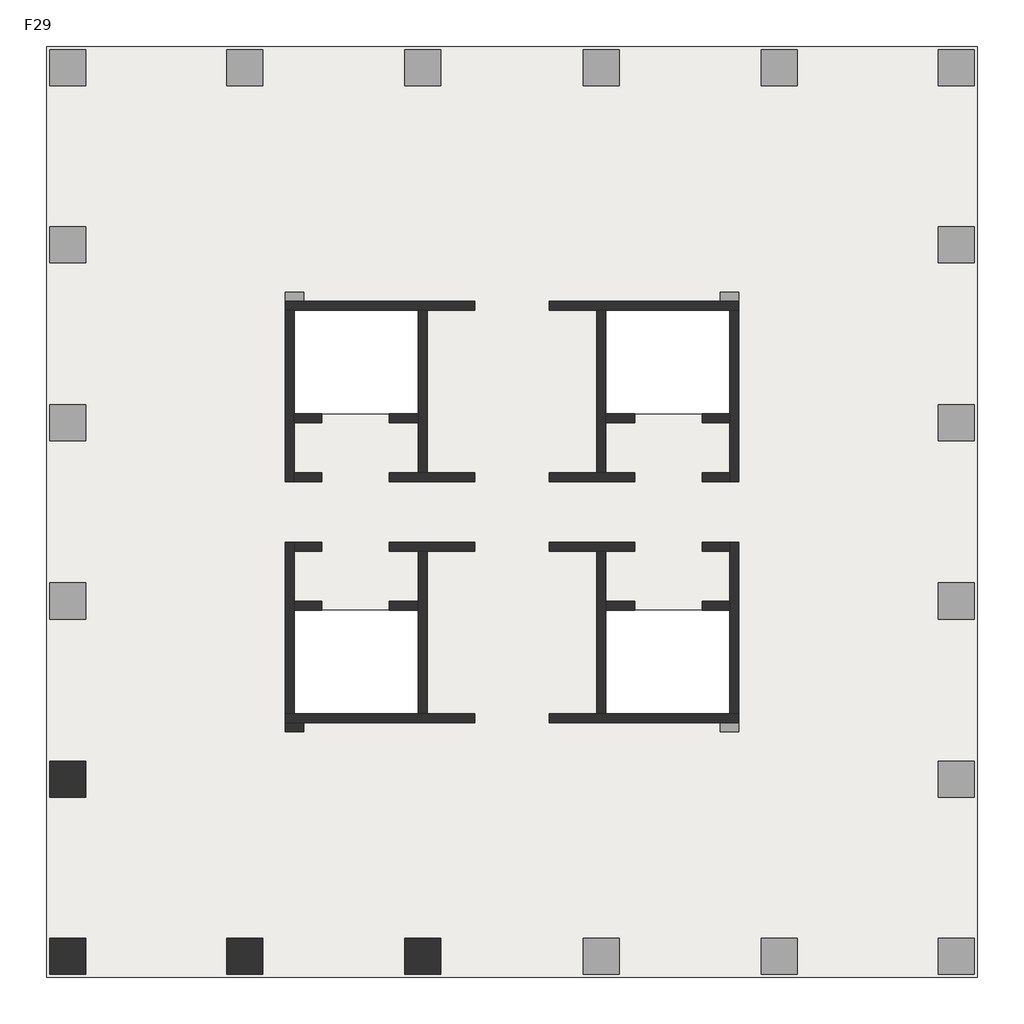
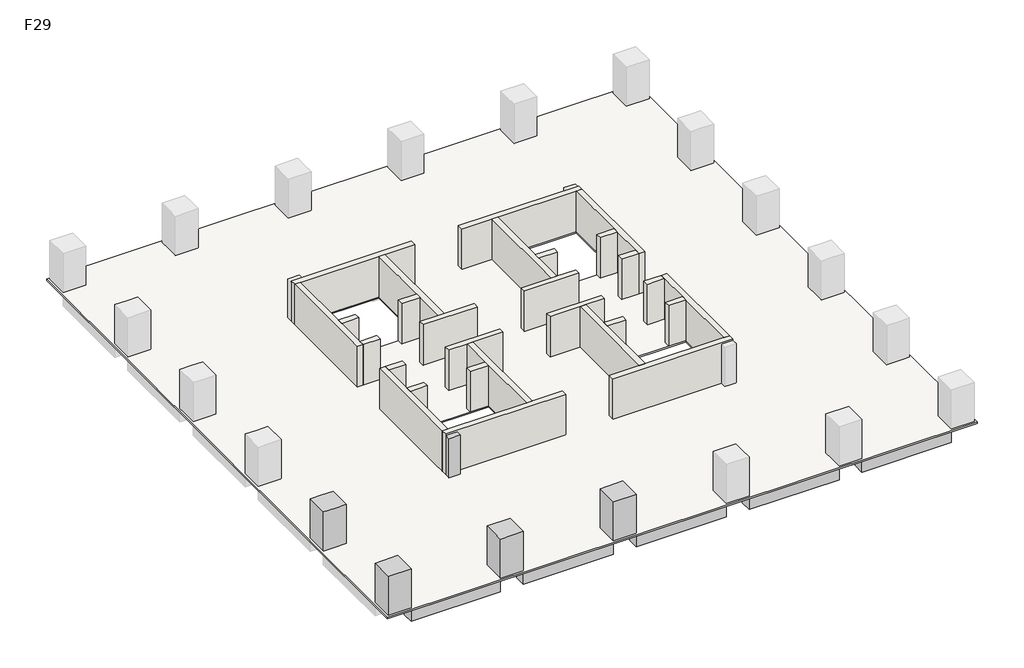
# One storey, part 1 of 2: 28 walls, 5 columns, 3 beams, 1 slab.
"""IFC4 building model written with IfcOpenShell, lengths in millimetres."""

from ifc_helpers import new_model, si_unit, frame, origin, place, context, project, spatial, polyline, outline, extrude, faceted_brep, element, save

model = new_model("IFC4")

# Units and contexts
model_context = context("Model", 3, world=origin())
ifc_project = project(units=[si_unit("LENGTHUNIT", "METRE", prefix="MILLI")], contexts=[model_context])

# Site, building, storey
site = spatial("IfcSite", under=ifc_project)
building = spatial("IfcBuilding", under=site)
storey = spatial("IfcBuildingStorey", under=building, Name="F29", Elevation=105000.0)

# Beams
placement = place(None, origin())
element("IfcBeam", 1, ObjectType="混凝土 - 矩形梁 : KL(5)-800x1000", at=placement, inside=storey, context=model_context, shape_type="SweptSolid", body=[
    extrude(outline(polyline([(-12472.6742169, -13948.9501342), (-12472.6742169, -13148.9501342), (-6222.6742169, -13148.9501342), (-6222.6742169, -13948.9501342), (-12472.6742169, -13948.9501342)])), frame((0.0, 0.0, 104000.0), z_axis=(0.0, 0.0, 1.0), x_axis=(1.0, 0.0, 0.0)), (0.0, 0.0, 1.0), 900.0),
    extrude(outline(polyline([(25327.3257831, -13148.9501342), (25327.3257831, -13948.9501342), (19077.3257831, -13948.9501342), (19077.3257831, -13148.9501342), (25327.3257831, -13148.9501342)])), frame((0.0, 0.0, 104000.0), z_axis=(0.0, 0.0, 1.0), x_axis=(1.0, 0.0, 0.0)), (0.0, 0.0, 1.0), 900.0),
    extrude(outline(polyline([(-4622.6742169, -13948.9501342), (-4622.6742169, -13148.9501342), (1677.3257831, -13148.9501342), (1677.3257831, -13948.9501342), (-4622.6742169, -13948.9501342)])), frame((0.0, 0.0, 104000.0), z_axis=(0.0, 0.0, 1.0), x_axis=(1.0, 0.0, 0.0)), (0.0, 0.0, 1.0), 900.0),
    extrude(outline(polyline([(3277.3257831, -13948.9501342), (3277.3257831, -13148.9501342), (9577.3257831, -13148.9501342), (9577.3257831, -13948.9501342), (3277.3257831, -13948.9501342)])), frame((0.0, 0.0, 104000.0), z_axis=(0.0, 0.0, 1.0), x_axis=(1.0, 0.0, 0.0)), (0.0, 0.0, 1.0), 900.0),
    extrude(outline(polyline([(11177.3257831, -13948.9501342), (11177.3257831, -13148.9501342), (17477.3257831, -13148.9501342), (17477.3257831, -13948.9501342), (11177.3257831, -13948.9501342)])), frame((0.0, 0.0, 104000.0), z_axis=(0.0, 0.0, 1.0), x_axis=(1.0, 0.0, 0.0)), (0.0, 0.0, 1.0), 900.0),
])
element("IfcBeam", 2, ObjectType="混凝土 - 矩形梁 : L1-800x500", at=placement, inside=storey, context=model_context, shape_type="Brep", body=[
    faceted_brep([(-12472.6742169, -5512.1353397, 104500.0), (-3746.9473979, -3341.556529, 104500.0), (-3173.6696907, -3198.9501342, 104500.0), (-3173.6696907, -3198.9501342, 104900.0), (-3746.9473979, -3341.556529, 104900.0), (-12472.6742169, -5512.1353397, 104900.0), (-3622.6742169, -3198.9501342, 104500.0), (-12472.6742169, -4687.7549784, 104500.0), (-3622.6742169, -2486.2624411, 104500.0), (-3622.6742169, -2798.9501342, 104500.0), (-12472.6742169, -4687.7549784, 104900.0), (-3622.6742169, -2486.2624411, 104900.0), (-3622.6742169, -3198.9501342, 104900.0)], [[[0, 1, 2, 3, 4, 5]], [[6, 2, 1, 0, 7, 8, 9]], [[8, 7, 10, 11]], [[2, 6, 12, 3]], [[9, 8, 11, 12, 6]], [[7, 0, 5, 10]], [[5, 4, 3, 12, 11, 10]]]),
])
element("IfcBeam", 3, ObjectType="混凝土 - 矩形梁 : L1-800x500", at=placement, inside=storey, context=model_context, shape_type="SweptSolid", body=[
    extrude(outline(polyline([(-3746.9473979, -3341.556529), (-3173.6696907, -3198.9501342), (-2898.7618154, -3198.9501342), (-4843.6893517, -12348.9501342), (-5661.5624638, -12348.9501342), (-3746.9473979, -3341.556529)])), frame((0.0, 0.0, 104500.0), z_axis=(0.0, 0.0, 1.0), x_axis=(1.0, 0.0, 0.0)), (0.0, 0.0, 1.0), 400.0),
])

# Columns
element("IfcColumn", 4, ObjectType="混凝土 - 矩形 - 柱 : Z1-1600x1600", at=placement, inside=storey, context=model_context, shape_type="Brep", body=[
    faceted_brep([(-12472.6742169, -4498.9501342, 105000.0), (-12472.6742169, -6098.9501342, 105000.0), (-14072.6742169, -6098.9501342, 105000.0), (-14072.6742169, -4498.9501342, 105000.0), (-12472.6742169, -4498.9501342, 107900.0), (-12472.6742169, -6098.9501342, 107900.0), (-13272.6742169, -6098.9501342, 107900.0), (-14072.6742169, -6098.9501342, 107900.0), (-14072.6742169, -6098.9501342, 107000.0), (-14072.6742169, -4498.9501342, 107900.0), (-14072.6742169, -4498.9501342, 107000.0), (-13272.6742169, -4498.9501342, 107900.0)], [[[0, 1, 2, 3]], [[1, 0, 4, 5]], [[2, 1, 5, 6, 7, 8]], [[3, 2, 8, 7, 9, 10]], [[0, 3, 10, 9, 11, 4]], [[5, 4, 11, 9, 7, 6]]]),
])
element("IfcColumn", 5, ObjectType="混凝土 - 矩形 - 柱 : Z1-1600x1600", at=placement, inside=storey, context=model_context, shape_type="SweptSolid", body=[
    extrude(outline(polyline([(-12472.6742169, -12348.9501342), (-12472.6742169, -13948.9501342), (-14072.6742169, -13948.9501342), (-14072.6742169, -12348.9501342), (-12472.6742169, -12348.9501342)])), frame((0.0, 0.0, 105000.0), z_axis=(0.0, 0.0, 1.0), x_axis=(1.0, 0.0, 0.0)), (0.0, 0.0, 1.0), 2900.0),
])
element("IfcColumn", 6, ObjectType="混凝土 - 矩形 - 柱 : Z1-1600x1600", at=placement, inside=storey, context=model_context, shape_type="Brep", body=[
    faceted_brep([(-4622.6742169, -12348.9501342, 105000.0), (-4622.6742169, -13948.9501342, 105000.0), (-6222.6742169, -13948.9501342, 105000.0), (-6222.6742169, -12348.9501342, 105000.0), (-4622.6742169, -12348.9501342, 107900.0), (-4622.6742169, -13148.9501342, 107900.0), (-4622.6742169, -13948.9501342, 107900.0), (-4622.6742169, -13948.9501342, 107000.0), (-6222.6742169, -13948.9501342, 107900.0), (-6222.6742169, -13948.9501342, 107000.0), (-6222.6742169, -13148.9501342, 107900.0), (-6222.6742169, -12348.9501342, 107900.0)], [[[0, 1, 2, 3]], [[1, 0, 4, 5, 6, 7]], [[2, 1, 7, 6, 8, 9]], [[3, 2, 9, 8, 10, 11]], [[0, 3, 11, 4]], [[6, 5, 4, 11, 10, 8]]]),
])
element("IfcColumn", 7, ObjectType="混凝土 - 矩形 - 柱 : Z1-1600x1600", at=placement, inside=storey, context=model_context, shape_type="Brep", body=[
    faceted_brep([(3277.3257831, -12348.9501342, 105000.0), (3277.3257831, -13948.9501342, 105000.0), (1677.3257831, -13948.9501342, 105000.0), (1677.3257831, -12348.9501342, 105000.0), (3277.3257831, -12348.9501342, 107900.0), (3277.3257831, -13148.9501342, 107900.0), (3277.3257831, -13948.9501342, 107900.0), (3277.3257831, -13948.9501342, 107000.0), (1677.3257831, -13948.9501342, 107900.0), (1677.3257831, -13948.9501342, 107000.0), (1677.3257831, -13148.9501342, 107900.0), (1677.3257831, -12348.9501342, 107900.0)], [[[0, 1, 2, 3]], [[1, 0, 4, 5, 6, 7]], [[2, 1, 7, 6, 8, 9]], [[3, 2, 9, 8, 10, 11]], [[0, 3, 11, 4]], [[6, 5, 4, 11, 10, 8]]]),
])
element("IfcColumn", 8, ObjectType="混凝土 - 矩形 - 柱 : Z2-800x800", at=placement, inside=storey, context=model_context, shape_type="SweptSolid", body=[
    extrude(outline(polyline([(-2822.6742169, -3198.9501342), (-3622.6742169, -3198.9501342), (-3622.6742169, -2798.9501342), (-2822.6742169, -2798.9501342), (-2822.6742169, -3198.9501342)])), frame((0.0, 0.0, 105000.0), z_axis=(0.0, 0.0, 1.0), x_axis=(1.0, 0.0, 0.0)), (0.0, 0.0, 1.0), 2900.0),
])

# Slab
element("IfcSlab", 9, ObjectType="LB-100", at=placement, inside=storey, context=model_context, shape_type="SweptSolid", body=[
    extrude(outline(polyline([(27077.3257831, 27201.0498658), (27077.3257831, -14085.2672073), (-14222.6742169, -14085.2672073), (-14222.6742169, 27201.0498658), (27077.3257831, 27201.0498658)]), holes=[polyline([(2277.3257831, 15501.0498658), (-3222.6742169, 15501.0498658), (-3222.6742169, 10901.0498658), (2277.3257831, 10901.0498658), (2277.3257831, 15501.0498658)]), polyline([(2277.3257831, 2201.0498658), (-3222.6742169, 2201.0498658), (-3222.6742169, -2398.9501342), (2277.3257831, -2398.9501342), (2277.3257831, 2201.0498658)]), polyline([(16077.3257831, 2201.0498658), (10577.3257831, 2201.0498658), (10577.3257831, -2398.9501342), (16077.3257831, -2398.9501342), (16077.3257831, 2201.0498658)]), polyline([(16077.3257831, 15501.0498658), (10577.3257831, 15501.0498658), (10577.3257831, 10901.0498658), (16077.3257831, 10901.0498658), (16077.3257831, 15501.0498658)])]), frame((0.0, 0.0, 104900.0), z_axis=(0.0, 0.0, 1.0), x_axis=(1.0, 0.0, 0.0)), (0.0, 0.0, 1.0), 100.0),
])

# Walls
element("IfcWall", 10, ObjectType="剪力墙-400", at=placement, inside=storey, context=model_context, shape_type="Brep", body=[
    faceted_brep([(-3622.6742169, 15501.0498658, 105000.0), (-3222.6742169, 15501.0498658, 105000.0), (2277.3257831, 15501.0498658, 105000.0), (2677.3257831, 15501.0498658, 105000.0), (4777.3257831, 15501.0498658, 105000.0), (4777.3257831, 15501.0498658, 108000.0), (2677.3257831, 15501.0498658, 108000.0), (2277.3257831, 15501.0498658, 108000.0), (-3222.6742169, 15501.0498658, 108000.0), (-3622.6742169, 15501.0498658, 108000.0), (-3622.6742169, 15901.0498658, 105000.0), (-3622.6742169, 15901.0498658, 107900.0), (-3622.6742169, 15901.0498658, 108000.0), (4777.3257831, 15901.0498658, 108000.0), (4777.3257831, 15901.0498658, 105000.0), (-2822.6742169, 15901.0498658, 105000.0)], [[[0, 1, 2, 3, 4, 5, 6, 7, 8, 9]], [[10, 11, 12, 13, 14, 15]], [[4, 3, 2, 1, 0, 10, 15, 14]], [[5, 4, 14, 13]], [[9, 8, 7, 6, 5, 13, 12]], [[0, 9, 12, 11, 10]]]),
])
element("IfcWall", 11, ObjectType="剪力墙-400", at=placement, inside=storey, context=model_context, shape_type="Brep", body=[
    faceted_brep([(2277.3257831, 15501.0498658, 105000.0), (2277.3257831, 10901.0498658, 105000.0), (2277.3257831, 10501.0498658, 105000.0), (2277.3257831, 8301.0498658, 105000.0), (2277.3257831, 8301.0498658, 108000.0), (2277.3257831, 10501.0498658, 108000.0), (2277.3257831, 10901.0498658, 108000.0), (2277.3257831, 15501.0498658, 108000.0), (2677.3257831, 15501.0498658, 105000.0), (2677.3257831, 15501.0498658, 108000.0), (2677.3257831, 8301.0498658, 108000.0), (2677.3257831, 8301.0498658, 105000.0)], [[[0, 1, 2, 3, 4, 5, 6, 7]], [[8, 9, 10, 11]], [[3, 2, 1, 0, 8, 11]], [[7, 6, 5, 4, 10, 9]], [[0, 7, 9, 8]], [[4, 3, 11, 10]]]),
])
element("IfcWall", 12, ObjectType="剪力墙-400", at=placement, inside=storey, context=model_context, shape_type="Brep", body=[
    faceted_brep([(-3622.6742169, 15501.0498658, 105000.0), (-3622.6742169, 7901.0498658, 105000.0), (-3622.6742169, 7901.0498658, 108000.0), (-3622.6742169, 15501.0498658, 108000.0), (-3222.6742169, 15501.0498658, 105000.0), (-3222.6742169, 15501.0498658, 108000.0), (-3222.6742169, 10901.0498658, 108000.0), (-3222.6742169, 10501.0498658, 108000.0), (-3222.6742169, 8301.0498658, 108000.0), (-3222.6742169, 7901.0498658, 108000.0), (-3222.6742169, 7901.0498658, 105000.0), (-3222.6742169, 8301.0498658, 105000.0), (-3222.6742169, 10501.0498658, 105000.0), (-3222.6742169, 10901.0498658, 105000.0)], [[[0, 1, 2, 3]], [[4, 5, 6, 7, 8, 9, 10, 11, 12, 13]], [[1, 0, 4, 13, 12, 11, 10]], [[3, 2, 9, 8, 7, 6, 5]], [[0, 3, 5, 4]], [[2, 1, 10, 9]]]),
])
element("IfcWall", 13, ObjectType="剪力墙-400", at=placement, inside=storey, context=model_context, shape_type="SweptSolid", body=[
    extrude(outline(polyline([(-2022.6742169, 7901.0498658), (-3222.6742169, 7901.0498658), (-3222.6742169, 8301.0498658), (-2022.6742169, 8301.0498658), (-2022.6742169, 7901.0498658)])), frame((0.0, 0.0, 105000.0), z_axis=(0.0, 0.0, 1.0), x_axis=(1.0, 0.0, 0.0)), (0.0, 0.0, 1.0), 3000.0),
])
element("IfcWall", 14, ObjectType="剪力墙-400", at=placement, inside=storey, context=model_context, shape_type="Brep", body=[
    faceted_brep([(977.3257831, 7901.0498658, 105000.0), (4777.3257831, 7901.0498658, 105000.0), (4777.3257831, 7901.0498658, 108000.0), (977.3257831, 7901.0498658, 108000.0), (977.3257831, 8301.0498658, 105000.0), (977.3257831, 8301.0498658, 108000.0), (2277.3257831, 8301.0498658, 108000.0), (2677.3257831, 8301.0498658, 108000.0), (4777.3257831, 8301.0498658, 108000.0), (4777.3257831, 8301.0498658, 105000.0), (2677.3257831, 8301.0498658, 105000.0), (2277.3257831, 8301.0498658, 105000.0)], [[[0, 1, 2, 3]], [[4, 5, 6, 7, 8, 9, 10, 11]], [[1, 0, 4, 11, 10, 9]], [[2, 1, 9, 8]], [[3, 2, 8, 7, 6, 5]], [[0, 3, 5, 4]]]),
])
element("IfcWall", 15, ObjectType="剪力墙-400", at=placement, inside=storey, context=model_context, shape_type="SweptSolid", body=[
    extrude(outline(polyline([(-2022.6742169, 10501.0498658), (-3222.6742169, 10501.0498658), (-3222.6742169, 10901.0498658), (-2022.6742169, 10901.0498658), (-2022.6742169, 10501.0498658)])), frame((0.0, 0.0, 105000.0), z_axis=(0.0, 0.0, 1.0), x_axis=(1.0, 0.0, 0.0)), (0.0, 0.0, 1.0), 3000.0),
])
element("IfcWall", 16, ObjectType="剪力墙-400", at=placement, inside=storey, context=model_context, shape_type="SweptSolid", body=[
    extrude(outline(polyline([(2277.3257831, 10501.0498658), (977.3257831, 10501.0498658), (977.3257831, 10901.0498658), (2277.3257831, 10901.0498658), (2277.3257831, 10501.0498658)])), frame((0.0, 0.0, 105000.0), z_axis=(0.0, 0.0, 1.0), x_axis=(1.0, 0.0, 0.0)), (0.0, 0.0, 1.0), 3000.0),
])
element("IfcWall", 17, ObjectType="剪力墙-400", at=placement, inside=storey, context=model_context, shape_type="Brep", body=[
    faceted_brep([(16477.3257831, 15901.0498658, 105000.0), (15677.3257831, 15901.0498658, 105000.0), (8077.3257831, 15901.0498658, 105000.0), (8077.3257831, 15901.0498658, 108000.0), (16477.3257831, 15901.0498658, 108000.0), (16477.3257831, 15901.0498658, 107900.0), (16477.3257831, 15501.0498658, 105000.0), (16477.3257831, 15501.0498658, 108000.0), (16077.3257831, 15501.0498658, 108000.0), (10577.3257831, 15501.0498658, 108000.0), (10177.3257831, 15501.0498658, 108000.0), (8077.3257831, 15501.0498658, 108000.0), (8077.3257831, 15501.0498658, 105000.0), (10177.3257831, 15501.0498658, 105000.0), (10577.3257831, 15501.0498658, 105000.0), (16077.3257831, 15501.0498658, 105000.0)], [[[0, 1, 2, 3, 4, 5]], [[6, 7, 8, 9, 10, 11, 12, 13, 14, 15]], [[2, 1, 0, 6, 15, 14, 13, 12]], [[3, 2, 12, 11]], [[4, 3, 11, 10, 9, 8, 7]], [[0, 5, 4, 7, 6]]]),
])
element("IfcWall", 18, ObjectType="剪力墙-400", at=placement, inside=storey, context=model_context, shape_type="Brep", body=[
    faceted_brep([(10177.3257831, 15501.0498658, 105000.0), (10177.3257831, 8301.0498658, 105000.0), (10177.3257831, 8301.0498658, 108000.0), (10177.3257831, 15501.0498658, 108000.0), (10577.3257831, 15501.0498658, 105000.0), (10577.3257831, 15501.0498658, 108000.0), (10577.3257831, 10901.0498658, 108000.0), (10577.3257831, 10501.0498658, 108000.0), (10577.3257831, 8301.0498658, 108000.0), (10577.3257831, 8301.0498658, 105000.0), (10577.3257831, 10501.0498658, 105000.0), (10577.3257831, 10901.0498658, 105000.0)], [[[0, 1, 2, 3]], [[4, 5, 6, 7, 8, 9, 10, 11]], [[1, 0, 4, 11, 10, 9]], [[3, 2, 8, 7, 6, 5]], [[0, 3, 5, 4]], [[2, 1, 9, 8]]]),
])
element("IfcWall", 19, ObjectType="剪力墙-400", at=placement, inside=storey, context=model_context, shape_type="Brep", body=[
    faceted_brep([(16077.3257831, 15501.0498658, 105000.0), (16077.3257831, 10901.0498658, 105000.0), (16077.3257831, 10501.0498658, 105000.0), (16077.3257831, 8301.0498658, 105000.0), (16077.3257831, 7901.0498658, 105000.0), (16077.3257831, 7901.0498658, 108000.0), (16077.3257831, 8301.0498658, 108000.0), (16077.3257831, 10501.0498658, 108000.0), (16077.3257831, 10901.0498658, 108000.0), (16077.3257831, 15501.0498658, 108000.0), (16477.3257831, 15501.0498658, 105000.0), (16477.3257831, 15501.0498658, 108000.0), (16477.3257831, 7901.0498658, 108000.0), (16477.3257831, 7901.0498658, 105000.0)], [[[0, 1, 2, 3, 4, 5, 6, 7, 8, 9]], [[10, 11, 12, 13]], [[4, 3, 2, 1, 0, 10, 13]], [[9, 8, 7, 6, 5, 12, 11]], [[0, 9, 11, 10]], [[5, 4, 13, 12]]]),
])
element("IfcWall", 20, ObjectType="剪力墙-400", at=placement, inside=storey, context=model_context, shape_type="SweptSolid", body=[
    extrude(outline(polyline([(14877.3257831, 8301.0498658), (16077.3257831, 8301.0498658), (16077.3257831, 7901.0498658), (14877.3257831, 7901.0498658), (14877.3257831, 8301.0498658)])), frame((0.0, 0.0, 105000.0), z_axis=(0.0, 0.0, 1.0), x_axis=(1.0, 0.0, 0.0)), (0.0, 0.0, 1.0), 3000.0),
])
element("IfcWall", 21, ObjectType="剪力墙-400", at=placement, inside=storey, context=model_context, shape_type="Brep", body=[
    faceted_brep([(11877.3257831, 8301.0498658, 105000.0), (10577.3257831, 8301.0498658, 105000.0), (10177.3257831, 8301.0498658, 105000.0), (8077.3257831, 8301.0498658, 105000.0), (8077.3257831, 8301.0498658, 108000.0), (10177.3257831, 8301.0498658, 108000.0), (10577.3257831, 8301.0498658, 108000.0), (11877.3257831, 8301.0498658, 108000.0), (11877.3257831, 7901.0498658, 105000.0), (11877.3257831, 7901.0498658, 108000.0), (8077.3257831, 7901.0498658, 108000.0), (8077.3257831, 7901.0498658, 105000.0)], [[[0, 1, 2, 3, 4, 5, 6, 7]], [[8, 9, 10, 11]], [[3, 2, 1, 0, 8, 11]], [[4, 3, 11, 10]], [[7, 6, 5, 4, 10, 9]], [[0, 7, 9, 8]]]),
])
element("IfcWall", 22, ObjectType="剪力墙-400", at=placement, inside=storey, context=model_context, shape_type="SweptSolid", body=[
    extrude(outline(polyline([(14877.3257831, 10901.0498658), (16077.3257831, 10901.0498658), (16077.3257831, 10501.0498658), (14877.3257831, 10501.0498658), (14877.3257831, 10901.0498658)])), frame((0.0, 0.0, 105000.0), z_axis=(0.0, 0.0, 1.0), x_axis=(1.0, 0.0, 0.0)), (0.0, 0.0, 1.0), 3000.0),
])
element("IfcWall", 23, ObjectType="剪力墙-400", at=placement, inside=storey, context=model_context, shape_type="SweptSolid", body=[
    extrude(outline(polyline([(10577.3257831, 10901.0498658), (11877.3257831, 10901.0498658), (11877.3257831, 10501.0498658), (10577.3257831, 10501.0498658), (10577.3257831, 10901.0498658)])), frame((0.0, 0.0, 105000.0), z_axis=(0.0, 0.0, 1.0), x_axis=(1.0, 0.0, 0.0)), (0.0, 0.0, 1.0), 3000.0),
])
element("IfcWall", 24, ObjectType="剪力墙-400", at=placement, inside=storey, context=model_context, shape_type="Brep", body=[
    faceted_brep([(-3622.6742169, -2798.9501342, 105000.0), (-2822.6742169, -2798.9501342, 105000.0), (4777.3257831, -2798.9501342, 105000.0), (4777.3257831, -2798.9501342, 108000.0), (-3622.6742169, -2798.9501342, 108000.0), (-3622.6742169, -2798.9501342, 107900.0), (-3622.6742169, -2398.9501342, 105000.0), (-3622.6742169, -2398.9501342, 108000.0), (-3222.6742169, -2398.9501342, 108000.0), (2277.3257831, -2398.9501342, 108000.0), (2677.3257831, -2398.9501342, 108000.0), (4777.3257831, -2398.9501342, 108000.0), (4777.3257831, -2398.9501342, 105000.0), (2677.3257831, -2398.9501342, 105000.0), (2277.3257831, -2398.9501342, 105000.0), (-3222.6742169, -2398.9501342, 105000.0)], [[[0, 1, 2, 3, 4, 5]], [[6, 7, 8, 9, 10, 11, 12, 13, 14, 15]], [[2, 1, 0, 6, 15, 14, 13, 12]], [[3, 2, 12, 11]], [[4, 3, 11, 10, 9, 8, 7]], [[0, 5, 4, 7, 6]]]),
])
element("IfcWall", 25, ObjectType="剪力墙-400", at=placement, inside=storey, context=model_context, shape_type="Brep", body=[
    faceted_brep([(2677.3257831, -2398.9501342, 105000.0), (2677.3257831, 4801.0498658, 105000.0), (2677.3257831, 4801.0498658, 108000.0), (2677.3257831, -2398.9501342, 108000.0), (2277.3257831, -2398.9501342, 105000.0), (2277.3257831, -2398.9501342, 108000.0), (2277.3257831, 2201.0498658, 108000.0), (2277.3257831, 2601.0498658, 108000.0), (2277.3257831, 4801.0498658, 108000.0), (2277.3257831, 4801.0498658, 105000.0), (2277.3257831, 2601.0498658, 105000.0), (2277.3257831, 2201.0498658, 105000.0)], [[[0, 1, 2, 3]], [[4, 5, 6, 7, 8, 9, 10, 11]], [[1, 0, 4, 11, 10, 9]], [[3, 2, 8, 7, 6, 5]], [[0, 3, 5, 4]], [[2, 1, 9, 8]]]),
])
element("IfcWall", 26, ObjectType="剪力墙-400", at=placement, inside=storey, context=model_context, shape_type="Brep", body=[
    faceted_brep([(-3222.6742169, -2398.9501342, 105000.0), (-3222.6742169, 2201.0498658, 105000.0), (-3222.6742169, 2601.0498658, 105000.0), (-3222.6742169, 4801.0498658, 105000.0), (-3222.6742169, 5201.0498658, 105000.0), (-3222.6742169, 5201.0498658, 108000.0), (-3222.6742169, 4801.0498658, 108000.0), (-3222.6742169, 2601.0498658, 108000.0), (-3222.6742169, 2201.0498658, 108000.0), (-3222.6742169, -2398.9501342, 108000.0), (-3622.6742169, -2398.9501342, 105000.0), (-3622.6742169, -2398.9501342, 108000.0), (-3622.6742169, 5201.0498658, 108000.0), (-3622.6742169, 5201.0498658, 105000.0)], [[[0, 1, 2, 3, 4, 5, 6, 7, 8, 9]], [[10, 11, 12, 13]], [[4, 3, 2, 1, 0, 10, 13]], [[9, 8, 7, 6, 5, 12, 11]], [[0, 9, 11, 10]], [[5, 4, 13, 12]]]),
])
element("IfcWall", 27, ObjectType="剪力墙-400", at=placement, inside=storey, context=model_context, shape_type="SweptSolid", body=[
    extrude(outline(polyline([(-2022.6742169, 4801.0498658), (-3222.6742169, 4801.0498658), (-3222.6742169, 5201.0498658), (-2022.6742169, 5201.0498658), (-2022.6742169, 4801.0498658)])), frame((0.0, 0.0, 105000.0), z_axis=(0.0, 0.0, 1.0), x_axis=(1.0, 0.0, 0.0)), (0.0, 0.0, 1.0), 3000.0),
])
element("IfcWall", 28, ObjectType="剪力墙-400", at=placement, inside=storey, context=model_context, shape_type="Brep", body=[
    faceted_brep([(977.3257831, 4801.0498658, 105000.0), (2277.3257831, 4801.0498658, 105000.0), (2677.3257831, 4801.0498658, 105000.0), (4777.3257831, 4801.0498658, 105000.0), (4777.3257831, 4801.0498658, 108000.0), (2677.3257831, 4801.0498658, 108000.0), (2277.3257831, 4801.0498658, 108000.0), (977.3257831, 4801.0498658, 108000.0), (977.3257831, 5201.0498658, 105000.0), (977.3257831, 5201.0498658, 108000.0), (4777.3257831, 5201.0498658, 108000.0), (4777.3257831, 5201.0498658, 105000.0)], [[[0, 1, 2, 3, 4, 5, 6, 7]], [[8, 9, 10, 11]], [[3, 2, 1, 0, 8, 11]], [[4, 3, 11, 10]], [[7, 6, 5, 4, 10, 9]], [[0, 7, 9, 8]]]),
])
element("IfcWall", 29, ObjectType="剪力墙-400", at=placement, inside=storey, context=model_context, shape_type="SweptSolid", body=[
    extrude(outline(polyline([(-2022.6742169, 2201.0498658), (-3222.6742169, 2201.0498658), (-3222.6742169, 2601.0498658), (-2022.6742169, 2601.0498658), (-2022.6742169, 2201.0498658)])), frame((0.0, 0.0, 105000.0), z_axis=(0.0, 0.0, 1.0), x_axis=(1.0, 0.0, 0.0)), (0.0, 0.0, 1.0), 3000.0),
])
element("IfcWall", 30, ObjectType="剪力墙-400", at=placement, inside=storey, context=model_context, shape_type="SweptSolid", body=[
    extrude(outline(polyline([(2277.3257831, 2201.0498658), (977.3257831, 2201.0498658), (977.3257831, 2601.0498658), (2277.3257831, 2601.0498658), (2277.3257831, 2201.0498658)])), frame((0.0, 0.0, 105000.0), z_axis=(0.0, 0.0, 1.0), x_axis=(1.0, 0.0, 0.0)), (0.0, 0.0, 1.0), 3000.0),
])
element("IfcWall", 31, ObjectType="剪力墙-400", at=placement, inside=storey, context=model_context, shape_type="Brep", body=[
    faceted_brep([(16477.3257831, -2398.9501342, 105000.0), (16077.3257831, -2398.9501342, 105000.0), (10577.3257831, -2398.9501342, 105000.0), (10177.3257831, -2398.9501342, 105000.0), (8077.3257831, -2398.9501342, 105000.0), (8077.3257831, -2398.9501342, 108000.0), (10177.3257831, -2398.9501342, 108000.0), (10577.3257831, -2398.9501342, 108000.0), (16077.3257831, -2398.9501342, 108000.0), (16477.3257831, -2398.9501342, 108000.0), (16477.3257831, -2798.9501342, 105000.0), (16477.3257831, -2798.9501342, 107900.0), (16477.3257831, -2798.9501342, 108000.0), (8077.3257831, -2798.9501342, 108000.0), (8077.3257831, -2798.9501342, 105000.0), (15677.3257831, -2798.9501342, 105000.0)], [[[0, 1, 2, 3, 4, 5, 6, 7, 8, 9]], [[10, 11, 12, 13, 14, 15]], [[4, 3, 2, 1, 0, 10, 15, 14]], [[5, 4, 14, 13]], [[9, 8, 7, 6, 5, 13, 12]], [[0, 9, 12, 11, 10]]]),
])
element("IfcWall", 32, ObjectType="剪力墙-400", at=placement, inside=storey, context=model_context, shape_type="Brep", body=[
    faceted_brep([(10577.3257831, -2398.9501342, 105000.0), (10577.3257831, 2201.0498658, 105000.0), (10577.3257831, 2601.0498658, 105000.0), (10577.3257831, 4801.0498658, 105000.0), (10577.3257831, 4801.0498658, 108000.0), (10577.3257831, 2601.0498658, 108000.0), (10577.3257831, 2201.0498658, 108000.0), (10577.3257831, -2398.9501342, 108000.0), (10177.3257831, -2398.9501342, 105000.0), (10177.3257831, -2398.9501342, 108000.0), (10177.3257831, 4801.0498658, 108000.0), (10177.3257831, 4801.0498658, 105000.0)], [[[0, 1, 2, 3, 4, 5, 6, 7]], [[8, 9, 10, 11]], [[3, 2, 1, 0, 8, 11]], [[7, 6, 5, 4, 10, 9]], [[0, 7, 9, 8]], [[4, 3, 11, 10]]]),
])
element("IfcWall", 33, ObjectType="剪力墙-400", at=placement, inside=storey, context=model_context, shape_type="Brep", body=[
    faceted_brep([(16477.3257831, -2398.9501342, 105000.0), (16477.3257831, 5201.0498658, 105000.0), (16477.3257831, 5201.0498658, 108000.0), (16477.3257831, -2398.9501342, 108000.0), (16077.3257831, -2398.9501342, 105000.0), (16077.3257831, -2398.9501342, 108000.0), (16077.3257831, 2201.0498658, 108000.0), (16077.3257831, 2601.0498658, 108000.0), (16077.3257831, 4801.0498658, 108000.0), (16077.3257831, 5201.0498658, 108000.0), (16077.3257831, 5201.0498658, 105000.0), (16077.3257831, 4801.0498658, 105000.0), (16077.3257831, 2601.0498658, 105000.0), (16077.3257831, 2201.0498658, 105000.0)], [[[0, 1, 2, 3]], [[4, 5, 6, 7, 8, 9, 10, 11, 12, 13]], [[1, 0, 4, 13, 12, 11, 10]], [[3, 2, 9, 8, 7, 6, 5]], [[0, 3, 5, 4]], [[2, 1, 10, 9]]]),
])
element("IfcWall", 34, ObjectType="剪力墙-400", at=placement, inside=storey, context=model_context, shape_type="SweptSolid", body=[
    extrude(outline(polyline([(14877.3257831, 5201.0498658), (16077.3257831, 5201.0498658), (16077.3257831, 4801.0498658), (14877.3257831, 4801.0498658), (14877.3257831, 5201.0498658)])), frame((0.0, 0.0, 105000.0), z_axis=(0.0, 0.0, 1.0), x_axis=(1.0, 0.0, 0.0)), (0.0, 0.0, 1.0), 3000.0),
])
element("IfcWall", 35, ObjectType="剪力墙-400", at=placement, inside=storey, context=model_context, shape_type="Brep", body=[
    faceted_brep([(11877.3257831, 5201.0498658, 105000.0), (8077.3257831, 5201.0498658, 105000.0), (8077.3257831, 5201.0498658, 108000.0), (11877.3257831, 5201.0498658, 108000.0), (11877.3257831, 4801.0498658, 105000.0), (11877.3257831, 4801.0498658, 108000.0), (10577.3257831, 4801.0498658, 108000.0), (10177.3257831, 4801.0498658, 108000.0), (8077.3257831, 4801.0498658, 108000.0), (8077.3257831, 4801.0498658, 105000.0), (10177.3257831, 4801.0498658, 105000.0), (10577.3257831, 4801.0498658, 105000.0)], [[[0, 1, 2, 3]], [[4, 5, 6, 7, 8, 9, 10, 11]], [[1, 0, 4, 11, 10, 9]], [[2, 1, 9, 8]], [[3, 2, 8, 7, 6, 5]], [[0, 3, 5, 4]]]),
])
element("IfcWall", 36, ObjectType="剪力墙-400", at=placement, inside=storey, context=model_context, shape_type="SweptSolid", body=[
    extrude(outline(polyline([(14877.3257831, 2601.0498658), (16077.3257831, 2601.0498658), (16077.3257831, 2201.0498658), (14877.3257831, 2201.0498658), (14877.3257831, 2601.0498658)])), frame((0.0, 0.0, 105000.0), z_axis=(0.0, 0.0, 1.0), x_axis=(1.0, 0.0, 0.0)), (0.0, 0.0, 1.0), 3000.0),
])
element("IfcWall", 37, ObjectType="剪力墙-400", at=placement, inside=storey, context=model_context, shape_type="SweptSolid", body=[
    extrude(outline(polyline([(10577.3257831, 2601.0498658), (11877.3257831, 2601.0498658), (11877.3257831, 2201.0498658), (10577.3257831, 2201.0498658), (10577.3257831, 2601.0498658)])), frame((0.0, 0.0, 105000.0), z_axis=(0.0, 0.0, 1.0), x_axis=(1.0, 0.0, 0.0)), (0.0, 0.0, 1.0), 3000.0),
])

save(model, "model.ifc")
